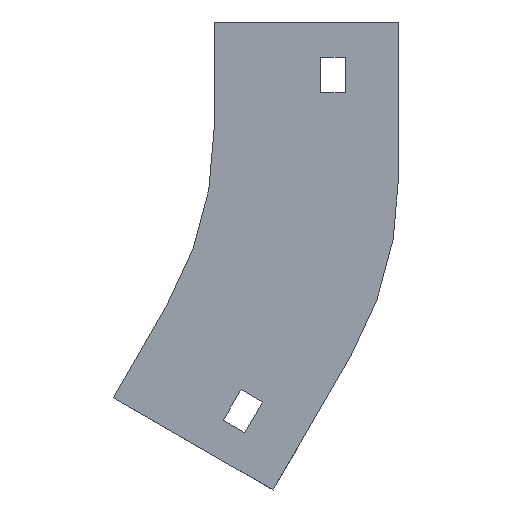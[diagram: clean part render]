
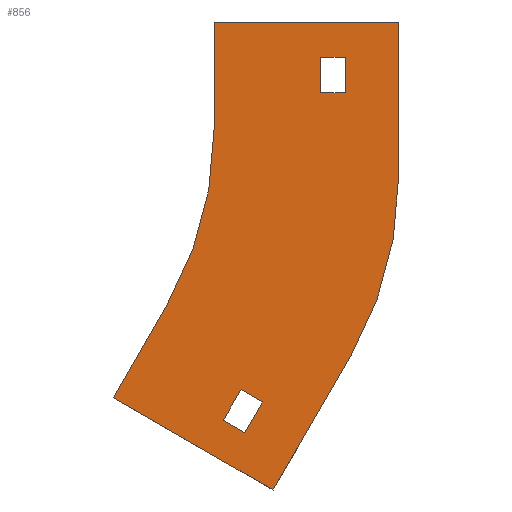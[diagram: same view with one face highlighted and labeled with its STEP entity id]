
A CAD part, left-side view. The second image highlights one B-rep face of the part: STEP entity #856.
In plain terms, the highlighted planar face has unit normal (-1, 0, 0).
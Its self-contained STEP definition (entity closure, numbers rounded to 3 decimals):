
#9 = VERTEX_POINT ( 'NONE', #395 ) ;
#19 = CARTESIAN_POINT ( 'NONE',  ( -102., -8.645, -115.821 ) ) ;
#31 = LINE ( 'NONE', #19, #103 ) ;
#42 = LINE ( 'NONE', #139, #180 ) ;
#75 = EDGE_CURVE ( 'NONE', #884, #1246, #472, .T. ) ;
#90 = LINE ( 'NONE', #351, #1124 ) ;
#97 = VERTEX_POINT ( 'NONE', #1318 ) ;
#103 = VECTOR ( 'NONE', #456, 1000. ) ;
#107 = CARTESIAN_POINT ( 'NONE',  ( -102., 28.397, -105.981 ) ) ;
#108 = DIRECTION ( 'NONE',  ( 1., 0., 0. ) ) ;
#114 = DIRECTION ( 'NONE',  ( 0., 0., -1. ) ) ;
#139 = CARTESIAN_POINT ( 'NONE',  ( -102., -37., -10. ) ) ;
#149 = DIRECTION ( 'NONE',  ( 1., 0., 0. ) ) ;
#154 = CARTESIAN_POINT ( 'NONE',  ( -102., -30., -10. ) ) ;
#166 = DIRECTION ( 'NONE',  ( 0., -1., 0. ) ) ;
#180 = VECTOR ( 'NONE', #114, 1000. ) ;
#188 = EDGE_CURVE ( 'NONE', #729, #569, #31, .T. ) ;
#192 = LINE ( 'NONE', #621, #292 ) ;
#214 = EDGE_CURVE ( 'NONE', #403, #1350, #275, .T. ) ;
#215 = FACE_BOUND ( 'NONE', #840, .T. ) ;
#218 = VECTOR ( 'NONE', #532, 1000. ) ;
#247 = ORIENTED_EDGE ( 'NONE', *, *, #1186, .T. ) ;
#260 = CARTESIAN_POINT ( 'NONE',  ( -102., 0., -30. ) ) ;
#263 = CARTESIAN_POINT ( 'NONE',  ( -102., 48., -43.933 ) ) ;
#275 = LINE ( 'NONE', #1236, #488 ) ;
#281 = ORIENTED_EDGE ( 'NONE', *, *, #214, .T. ) ;
#284 = EDGE_LOOP ( 'NONE', ( #591, #1240, #430, #383, #1389, #1353, #671, #1358 ) ) ;
#292 = VECTOR ( 'NONE', #1376, 1000. ) ;
#299 = ORIENTED_EDGE ( 'NONE', *, *, #662, .F. ) ;
#312 = CARTESIAN_POINT ( 'NONE',  ( -102., 13.397, -80. ) ) ;
#316 = EDGE_CURVE ( 'NONE', #375, #9, #1131, .T. ) ;
#322 = FACE_BOUND ( 'NONE', #464, .T. ) ;
#339 = CARTESIAN_POINT ( 'NONE',  ( -102., 0., 0. ) ) ;
#351 = CARTESIAN_POINT ( 'NONE',  ( -102., -16.636, -131.981 ) ) ;
#354 = FACE_OUTER_BOUND ( 'NONE', #284, .T. ) ;
#362 = CARTESIAN_POINT ( 'NONE',  ( -102., -16.636, -131.981 ) ) ;
#370 = VECTOR ( 'NONE', #1088, 1000. ) ;
#375 = VERTEX_POINT ( 'NONE', #861 ) ;
#382 = ORIENTED_EDGE ( 'NONE', *, *, #857, .T. ) ;
#383 = ORIENTED_EDGE ( 'NONE', *, *, #415, .F. ) ;
#395 = CARTESIAN_POINT ( 'NONE',  ( -102., -37., -10. ) ) ;
#403 = VERTEX_POINT ( 'NONE', #1159 ) ;
#415 = EDGE_CURVE ( 'NONE', #1246, #546, #1274, .T. ) ;
#421 = LINE ( 'NONE', #1080, #510 ) ;
#423 = CARTESIAN_POINT ( 'NONE',  ( -102., 100., -30. ) ) ;
#430 = ORIENTED_EDGE ( 'NONE', *, *, #1251, .F. ) ;
#442 = VECTOR ( 'NONE', #1037, 1000. ) ;
#448 = EDGE_CURVE ( 'NONE', #1367, #1323, #421, .T. ) ;
#456 = DIRECTION ( 'NONE',  ( 0., -0.5, 0.866 ) ) ;
#461 = DIRECTION ( 'NONE',  ( 0., 0., 1. ) ) ;
#464 = EDGE_LOOP ( 'NONE', ( #299, #788, #612, #1113 ) ) ;
#471 = ORIENTED_EDGE ( 'NONE', *, *, #316, .T. ) ;
#472 = LINE ( 'NONE', #107, #218 ) ;
#478 = CARTESIAN_POINT ( 'NONE',  ( -102., -7.583, -103.66 ) ) ;
#487 = LINE ( 'NONE', #596, #1306 ) ;
#488 = VECTOR ( 'NONE', #609, 1000. ) ;
#510 = VECTOR ( 'NONE', #940, 1000. ) ;
#522 = CARTESIAN_POINT ( 'NONE',  ( -102., -52., -43.933 ) ) ;
#523 = EDGE_CURVE ( 'NONE', #641, #1367, #1002, .T. ) ;
#530 = VECTOR ( 'NONE', #555, 1000. ) ;
#532 = DIRECTION ( 'NONE',  ( 0., 0.866, 0.5 ) ) ;
#545 = EDGE_CURVE ( 'NONE', #569, #947, #659, .T. ) ;
#546 = VERTEX_POINT ( 'NONE', #789 ) ;
#549 = CARTESIAN_POINT ( 'NONE',  ( -102., 0., 0. ) ) ;
#555 = DIRECTION ( 'NONE',  ( 0., 0.866, 0.5 ) ) ;
#569 = VERTEX_POINT ( 'NONE', #1099 ) ;
#572 = CARTESIAN_POINT ( 'NONE',  ( -102., -30., -20. ) ) ;
#591 = ORIENTED_EDGE ( 'NONE', *, *, #448, .F. ) ;
#596 = CARTESIAN_POINT ( 'NONE',  ( -102., -52., -43.933 ) ) ;
#609 = DIRECTION ( 'NONE',  ( 0., 1., 0. ) ) ;
#612 = ORIENTED_EDGE ( 'NONE', *, *, #545, .F. ) ;
#621 = CARTESIAN_POINT ( 'NONE',  ( -102., -2.583, -112.321 ) ) ;
#632 = CIRCLE ( 'NONE', #954, 100. ) ;
#636 = LINE ( 'NONE', #1181, #1021 ) ;
#639 = DIRECTION ( 'NONE',  ( 0., -0.5, 0.866 ) ) ;
#641 = VERTEX_POINT ( 'NONE', #260 ) ;
#659 = LINE ( 'NONE', #978, #530 ) ;
#662 = EDGE_CURVE ( 'NONE', #97, #729, #1362, .T. ) ;
#667 = VECTOR ( 'NONE', #166, 1000. ) ;
#671 = ORIENTED_EDGE ( 'NONE', *, *, #901, .F. ) ;
#673 = CIRCLE ( 'NONE', #813, 100. ) ;
#729 = VERTEX_POINT ( 'NONE', #1292 ) ;
#763 = CARTESIAN_POINT ( 'NONE',  ( -102., 28.397, -105.981 ) ) ;
#766 = VERTEX_POINT ( 'NONE', #522 ) ;
#775 = EDGE_CURVE ( 'NONE', #947, #97, #192, .T. ) ;
#777 = DIRECTION ( 'NONE',  ( 0., 0.5, -0.866 ) ) ;
#788 = ORIENTED_EDGE ( 'NONE', *, *, #775, .F. ) ;
#789 = CARTESIAN_POINT ( 'NONE',  ( -102., 13.397, -80. ) ) ;
#794 = PLANE ( 'NONE',  #1171 ) ;
#813 = AXIS2_PLACEMENT_3D ( 'NONE', #263, #108, #461 ) ;
#825 = CARTESIAN_POINT ( 'NONE',  ( -102., -2.583, -112.321 ) ) ;
#827 = CARTESIAN_POINT ( 'NONE',  ( -102., -38.603, -93.933 ) ) ;
#840 = EDGE_LOOP ( 'NONE', ( #247, #471, #382, #281 ) ) ;
#856 = ADVANCED_FACE ( 'NONE', ( #354, #215, #322 ), #794, .F. ) ;
#857 = EDGE_CURVE ( 'NONE', #9, #403, #42, .T. ) ;
#861 = CARTESIAN_POINT ( 'NONE',  ( -102., -30., -10. ) ) ;
#862 = DIRECTION ( 'NONE',  ( -1., 0., 0. ) ) ;
#884 = VERTEX_POINT ( 'NONE', #362 ) ;
#901 = EDGE_CURVE ( 'NONE', #766, #1051, #673, .T. ) ;
#940 = DIRECTION ( 'NONE',  ( 0., -1., 0. ) ) ;
#947 = VERTEX_POINT ( 'NONE', #478 ) ;
#954 = AXIS2_PLACEMENT_3D ( 'NONE', #423, #862, #1162 ) ;
#978 = CARTESIAN_POINT ( 'NONE',  ( -102., -7.583, -103.66 ) ) ;
#1002 = LINE ( 'NONE', #549, #370 ) ;
#1021 = VECTOR ( 'NONE', #1288, 1000. ) ;
#1037 = DIRECTION ( 'NONE',  ( 0., -0.866, -0.5 ) ) ;
#1045 = EDGE_CURVE ( 'NONE', #1323, #766, #487, .T. ) ;
#1051 = VERTEX_POINT ( 'NONE', #827 ) ;
#1079 = DIRECTION ( 'NONE',  ( 0., 0., -1. ) ) ;
#1080 = CARTESIAN_POINT ( 'NONE',  ( -102., -52., 0. ) ) ;
#1088 = DIRECTION ( 'NONE',  ( 0., 0., 1. ) ) ;
#1096 = CARTESIAN_POINT ( 'NONE',  ( -102., -52., 0. ) ) ;
#1099 = CARTESIAN_POINT ( 'NONE',  ( -102., -13.645, -107.16 ) ) ;
#1113 = ORIENTED_EDGE ( 'NONE', *, *, #188, .F. ) ;
#1124 = VECTOR ( 'NONE', #777, 1000. ) ;
#1131 = LINE ( 'NONE', #154, #667 ) ;
#1156 = DIRECTION ( 'NONE',  ( 0., 0., -1. ) ) ;
#1159 = CARTESIAN_POINT ( 'NONE',  ( -102., -37., -20. ) ) ;
#1162 = DIRECTION ( 'NONE',  ( 0., 0., -1. ) ) ;
#1171 = AXIS2_PLACEMENT_3D ( 'NONE', #1184, #149, #1079 ) ;
#1181 = CARTESIAN_POINT ( 'NONE',  ( -102., -30., -10. ) ) ;
#1184 = CARTESIAN_POINT ( 'NONE',  ( -102., 100., -30. ) ) ;
#1186 = EDGE_CURVE ( 'NONE', #1350, #375, #636, .T. ) ;
#1235 = VECTOR ( 'NONE', #639, 1000. ) ;
#1236 = CARTESIAN_POINT ( 'NONE',  ( -102., -30., -20. ) ) ;
#1240 = ORIENTED_EDGE ( 'NONE', *, *, #523, .F. ) ;
#1246 = VERTEX_POINT ( 'NONE', #763 ) ;
#1251 = EDGE_CURVE ( 'NONE', #546, #641, #632, .T. ) ;
#1274 = LINE ( 'NONE', #312, #1235 ) ;
#1279 = EDGE_CURVE ( 'NONE', #1051, #884, #90, .T. ) ;
#1288 = DIRECTION ( 'NONE',  ( 0., 0., 1. ) ) ;
#1292 = CARTESIAN_POINT ( 'NONE',  ( -102., -8.645, -115.821 ) ) ;
#1306 = VECTOR ( 'NONE', #1156, 1000. ) ;
#1318 = CARTESIAN_POINT ( 'NONE',  ( -102., -2.583, -112.321 ) ) ;
#1323 = VERTEX_POINT ( 'NONE', #1096 ) ;
#1350 = VERTEX_POINT ( 'NONE', #572 ) ;
#1353 = ORIENTED_EDGE ( 'NONE', *, *, #1279, .F. ) ;
#1358 = ORIENTED_EDGE ( 'NONE', *, *, #1045, .F. ) ;
#1362 = LINE ( 'NONE', #825, #442 ) ;
#1367 = VERTEX_POINT ( 'NONE', #339 ) ;
#1376 = DIRECTION ( 'NONE',  ( 0., 0.5, -0.866 ) ) ;
#1389 = ORIENTED_EDGE ( 'NONE', *, *, #75, .F. ) ;
